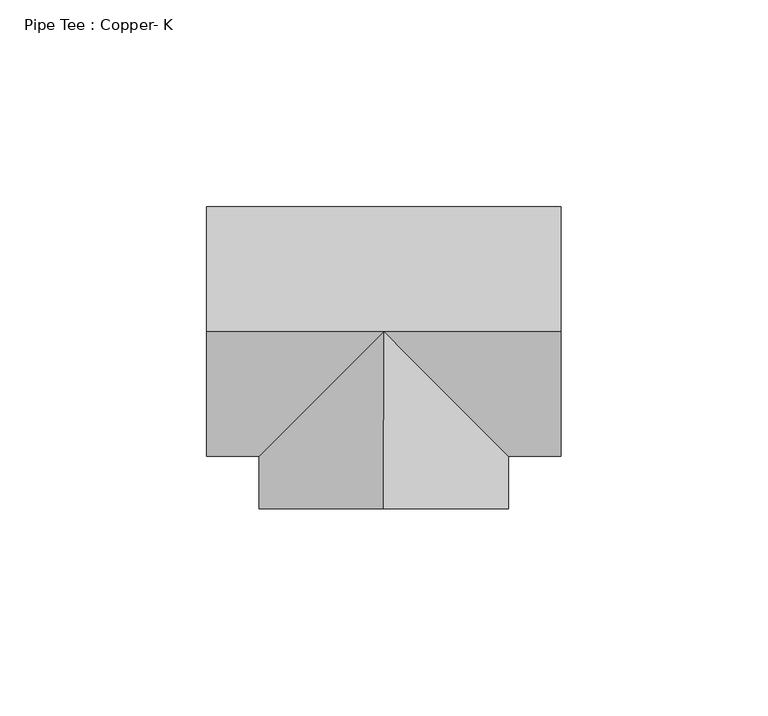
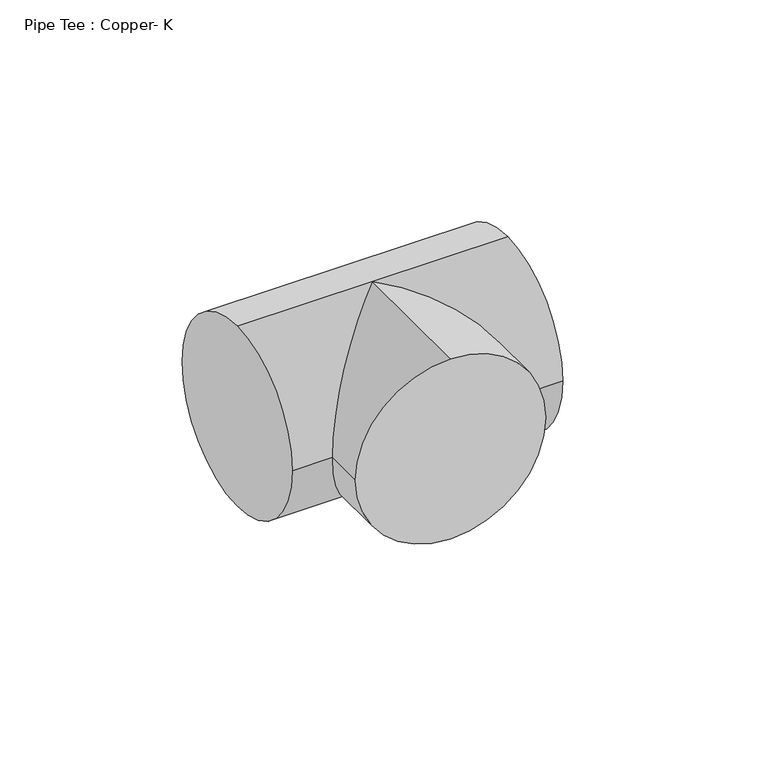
"""IFC4 building model written with IfcOpenShell, lengths in millimetres: pipe fitting geometry, Pipe Tee : Copper- K."""

from ifc_helpers import new_model, si_unit, frame, origin, place, context, project, spatial, circle_curve, ellipse_curve, source, transform, mapped, element, save
from ifc_brep_helpers import plane_surface, cylinder_surface, advanced_brep


def pipe_tee_copper_k_79d412e9(model_context):
    return source(origin(), model_context, "Body", "AdvancedBrep", [
        advanced_brep(
        [(-42.8625, 0.0, 30.1625), (-42.8625, 30.1625, 0.0), (-42.8625, 0.0, -30.1625), (-42.8625, -30.1625, 0.0), (42.8625, 0.0, 30.1625), (42.8625, -30.1625, 0.0), (42.8625, 0.0, -30.1625), (42.8625, 30.1625, 0.0), (0.0, 0.0, 30.1625), (0.0, 0.0, -30.1625), (-30.1625067, -30.1625, 0.0), (30.1624933, -30.1625, 0.0), (-9.5e-06, -42.8625, 30.1625), (-30.1625095, -42.8624933, 0.0), (-9.5e-06, -42.8625, -30.1625), (30.1624905, -42.8625067, 0.0)],
        [
            (0, 1, circle_curve(frame((-42.8625, 0.0, 0.0), z_axis=(-1.0, 0.0, 0.0), x_axis=(0.0, 1.0, 0.0)), 30.1625)),
            (1, 2, circle_curve(frame((-42.8625, 0.0, 0.0), z_axis=(-1.0, 0.0, 0.0), x_axis=(0.0, 1.0, 0.0)), 30.1625)),
            (2, 3, circle_curve(frame((-42.8625, 0.0, 0.0), z_axis=(-1.0, 0.0, 0.0), x_axis=(0.0, 1.0, 0.0)), 30.1625)),
            (3, 0, circle_curve(frame((-42.8625, 0.0, 0.0), z_axis=(-1.0, 0.0, 0.0), x_axis=(0.0, 1.0, 0.0)), 30.1625)),
            (4, 5, circle_curve(frame((42.8625, 0.0, 0.0), z_axis=(1.0, 0.0, 0.0), x_axis=(0.0, 1.0, 0.0)), 30.1625)),
            (5, 6, circle_curve(frame((42.8625, 0.0, 0.0), z_axis=(1.0, 0.0, 0.0), x_axis=(0.0, 1.0, 0.0)), 30.1625)),
            (6, 7, circle_curve(frame((42.8625, 0.0, 0.0), z_axis=(1.0, 0.0, 0.0), x_axis=(0.0, 1.0, 0.0)), 30.1625)),
            (7, 4, circle_curve(frame((42.8625, 0.0, 0.0), z_axis=(1.0, 0.0, 0.0), x_axis=(0.0, 1.0, 0.0)), 30.1625)),
            (0, 8),
            (8, 4),
            (7, 1),
            (6, 9),
            (9, 2),
            (9, 10, ellipse_curve(frame((0.0, 0.0, 0.0), z_axis=(-0.7071067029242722, 0.707106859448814, 0.0), x_axis=(-0.7071068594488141, -0.707106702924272, 0.0)), 42.6562213, 30.1625)),
            (10, 3),
            (5, 11),
            (11, 9, ellipse_curve(frame((0.0, 0.0, 0.0), z_axis=(0.707106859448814, 0.7071067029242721, 0.0), x_axis=(-0.7071067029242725, 0.7071068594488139, 0.0)), 42.6562119, 30.1625)),
            (10, 8, ellipse_curve(frame((0.0, 0.0, 0.0), z_axis=(-0.7071067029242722, 0.707106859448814, 0.0), x_axis=(-0.7071068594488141, -0.707106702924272, 0.0)), 42.6562213, 30.1625)),
            (8, 11, ellipse_curve(frame((0.0, 0.0, 0.0), z_axis=(0.707106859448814, 0.7071067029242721, 0.0), x_axis=(-0.7071067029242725, 0.7071068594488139, 0.0)), 42.6562119, 30.1625)),
            (12, 13, circle_curve(frame((-9.5e-06, -42.8625, 0.0), z_axis=(-2.2135912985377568e-07, -0.9999999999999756, 0.0), x_axis=(0.9999999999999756, -2.2135912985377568e-07, 0.0)), 30.1625)),
            (13, 14, circle_curve(frame((-9.5e-06, -42.8625, 0.0), z_axis=(-2.2135912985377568e-07, -0.9999999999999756, 0.0), x_axis=(0.9999999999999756, -2.2135912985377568e-07, 0.0)), 30.1625)),
            (14, 15, circle_curve(frame((-9.5e-06, -42.8625, 0.0), z_axis=(-2.2135912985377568e-07, -0.9999999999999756, 0.0), x_axis=(0.9999999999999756, -2.2135912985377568e-07, 0.0)), 30.1625)),
            (15, 12, circle_curve(frame((-9.5e-06, -42.8625, 0.0), z_axis=(-2.2135912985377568e-07, -0.9999999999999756, 0.0), x_axis=(0.9999999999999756, -2.2135912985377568e-07, 0.0)), 30.1625)),
            (15, 11),
            (8, 12),
            (14, 9),
            (13, 10),
        ],
        [
            plane_surface(frame((-42.8625, 0.0, 0.0), z_axis=(-1.0, 0.0, 0.0), x_axis=(0.0, 0.0, 1.0))),
            plane_surface(frame((42.8625, 0.0, 0.0), z_axis=(1.0, 0.0, 0.0), x_axis=(0.0, 0.0, 1.0))),
            cylinder_surface(frame((-42.8625, 0.0, 0.0), z_axis=(-1.0, 0.0, 0.0), x_axis=(0.0, 1.0, 0.0)), 30.1625),
            plane_surface(frame((-9.5e-06, -42.8625, 0.0), z_axis=(-2.2135912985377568e-07, -0.9999999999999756, 0.0), x_axis=(0.0, 0.0, 1.0))),
            cylinder_surface(frame((0.0, 0.0, 0.0), z_axis=(2.2135912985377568e-07, 0.9999999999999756, 0.0), x_axis=(0.9999999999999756, -2.2135912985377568e-07, 0.0)), 30.1625),
        ],
        [
            (0, [[1, 2, 3, 4]]),
            (1, [[5, 6, 7, 8]]),
            (2, [[-1, 9, 10, -8, 11]]),
            (2, [[-2, -11, -7, 12, 13]]),
            (2, [[-3, -13, 14, 15]]),
            (2, [[-6, 16, 17, -12]]),
            (2, [[-4, -15, 18, -9]]),
            (2, [[-5, -10, 19, -16]]),
            (3, [[20, 21, 22, 23]]),
            (4, [[-23, 24, -19, 25]]),
            (4, [[-22, 26, -17, -24]]),
            (4, [[-21, 27, -14, -26]]),
            (4, [[-20, -25, -18, -27]]),
        ],
    ),
        advanced_brep(
        [(-42.8625, 0.0, 30.1625), (-42.8625, 30.1625, 0.0), (-42.8625, 0.0, -30.1625), (-42.8625, -30.1625, 0.0), (42.8625, 0.0, 30.1625), (42.8625, -30.1625, 0.0), (42.8625, 0.0, -30.1625), (42.8625, 30.1625, 0.0), (0.0, 0.0, 30.1625), (0.0, 0.0, -30.1625), (-30.1625067, -30.1625, 0.0), (30.1624933, -30.1625, 0.0), (-9.5e-06, -42.8625, 30.1625), (-30.1625095, -42.8624933, 0.0), (-9.5e-06, -42.8625, -30.1625), (30.1624905, -42.8625067, 0.0)],
        [
            (0, 1, circle_curve(frame((-42.8625, 0.0, 0.0), z_axis=(-1.0, 0.0, 0.0), x_axis=(0.0, 1.0, 0.0)), 30.1625)),
            (1, 2, circle_curve(frame((-42.8625, 0.0, 0.0), z_axis=(-1.0, 0.0, 0.0), x_axis=(0.0, 1.0, 0.0)), 30.1625)),
            (2, 3, circle_curve(frame((-42.8625, 0.0, 0.0), z_axis=(-1.0, 0.0, 0.0), x_axis=(0.0, 1.0, 0.0)), 30.1625)),
            (3, 0, circle_curve(frame((-42.8625, 0.0, 0.0), z_axis=(-1.0, 0.0, 0.0), x_axis=(0.0, 1.0, 0.0)), 30.1625)),
            (4, 5, circle_curve(frame((42.8625, 0.0, 0.0), z_axis=(1.0, 0.0, 0.0), x_axis=(0.0, 1.0, 0.0)), 30.1625)),
            (5, 6, circle_curve(frame((42.8625, 0.0, 0.0), z_axis=(1.0, 0.0, 0.0), x_axis=(0.0, 1.0, 0.0)), 30.1625)),
            (6, 7, circle_curve(frame((42.8625, 0.0, 0.0), z_axis=(1.0, 0.0, 0.0), x_axis=(0.0, 1.0, 0.0)), 30.1625)),
            (7, 4, circle_curve(frame((42.8625, 0.0, 0.0), z_axis=(1.0, 0.0, 0.0), x_axis=(0.0, 1.0, 0.0)), 30.1625)),
            (0, 8),
            (8, 4),
            (7, 1),
            (6, 9),
            (9, 2),
            (9, 10, ellipse_curve(frame((0.0, 0.0, 0.0), z_axis=(-0.7071067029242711, 0.7071068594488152, 0.0), x_axis=(-0.7071068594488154, -0.707106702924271, 0.0)), 42.6562213, 30.1625)),
            (10, 3),
            (5, 11),
            (11, 9, ellipse_curve(frame((0.0, 0.0, 0.0), z_axis=(0.7071068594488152, 0.7071067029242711, 0.0), x_axis=(-0.707106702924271, 0.7071068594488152, 0.0)), 42.6562119, 30.1625)),
            (10, 8, ellipse_curve(frame((0.0, 0.0, 0.0), z_axis=(-0.7071067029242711, 0.7071068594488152, 0.0), x_axis=(-0.7071068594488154, -0.707106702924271, 0.0)), 42.6562213, 30.1625)),
            (8, 11, ellipse_curve(frame((0.0, 0.0, 0.0), z_axis=(0.7071068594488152, 0.7071067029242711, 0.0), x_axis=(-0.707106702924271, 0.7071068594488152, 0.0)), 42.6562119, 30.1625)),
            (12, 13, circle_curve(frame((-9.5e-06, -42.8625, 0.0), z_axis=(-2.2135912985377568e-07, -0.9999999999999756, 0.0), x_axis=(0.9999999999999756, -2.2135912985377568e-07, 0.0)), 30.1625)),
            (13, 14, circle_curve(frame((-9.5e-06, -42.8625, 0.0), z_axis=(-2.2135912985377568e-07, -0.9999999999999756, 0.0), x_axis=(0.9999999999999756, -2.2135912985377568e-07, 0.0)), 30.1625)),
            (14, 15, circle_curve(frame((-9.5e-06, -42.8625, 0.0), z_axis=(-2.2135912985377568e-07, -0.9999999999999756, 0.0), x_axis=(0.9999999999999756, -2.2135912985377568e-07, 0.0)), 30.1625)),
            (15, 12, circle_curve(frame((-9.5e-06, -42.8625, 0.0), z_axis=(-2.2135912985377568e-07, -0.9999999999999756, 0.0), x_axis=(0.9999999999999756, -2.2135912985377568e-07, 0.0)), 30.1625)),
            (15, 11),
            (8, 12),
            (14, 9),
            (13, 10),
        ],
        [
            plane_surface(frame((-42.8625, 0.0, 0.0), z_axis=(-1.0, 0.0, 0.0), x_axis=(0.0, 0.0, 1.0))),
            plane_surface(frame((42.8625, 0.0, 0.0), z_axis=(1.0, 0.0, 0.0), x_axis=(0.0, 0.0, 1.0))),
            cylinder_surface(frame((-42.8625, 0.0, 0.0), z_axis=(-1.0, 0.0, 0.0), x_axis=(0.0, 1.0, 0.0)), 30.1625),
            plane_surface(frame((-9.5e-06, -42.8625, 0.0), z_axis=(-2.2135912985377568e-07, -0.9999999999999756, 0.0), x_axis=(0.0, 0.0, 1.0))),
            cylinder_surface(frame((0.0, 0.0, 0.0), z_axis=(2.2135912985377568e-07, 0.9999999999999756, 0.0), x_axis=(0.9999999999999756, -2.2135912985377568e-07, 0.0)), 30.1625),
        ],
        [
            (0, [[1, 2, 3, 4]]),
            (1, [[5, 6, 7, 8]]),
            (2, [[-1, 9, 10, -8, 11]]),
            (2, [[-2, -11, -7, 12, 13]]),
            (2, [[-3, -13, 14, 15]]),
            (2, [[-6, 16, 17, -12]]),
            (2, [[-4, -15, 18, -9]]),
            (2, [[-5, -10, 19, -16]]),
            (3, [[20, 21, 22, 23]]),
            (4, [[-23, 24, -19, 25]]),
            (4, [[-22, 26, -17, -24]]),
            (4, [[-21, 27, -14, -26]]),
            (4, [[-20, -25, -18, -27]]),
        ],
    ),
    ])


if __name__ == "__main__":
    model = new_model("IFC4")
    model_context = context("Model", 3, world=origin())
    ifc_project = project(units=[si_unit("LENGTHUNIT", "METRE", prefix="MILLI")], contexts=[model_context])
    site = spatial("IfcSite", under=ifc_project)
    building = spatial("IfcBuilding", under=site)
    placement = place(None, origin())
    pipe_tee_copper_k_shape = pipe_tee_copper_k_79d412e9(model_context)
    element("IfcPipeFitting", 1, ObjectType="Pipe Tee : Copper- K", at=placement, inside=building, context=model_context, shape_type="MappedRepresentation", body=[
        mapped(pipe_tee_copper_k_shape, transform((0.0, 0.0, 0.0), x_axis=(1.0, 0.0, 0.0), y_axis=(0.0, 1.0, 0.0), z_axis=(0.0, 0.0, 1.0))),
    ])
    save(model, "model.ifc")
